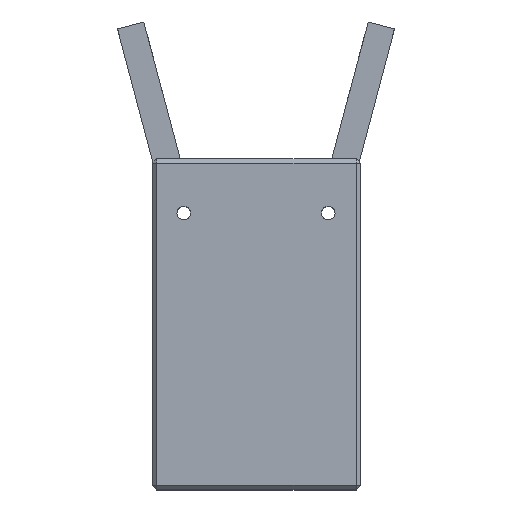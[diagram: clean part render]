
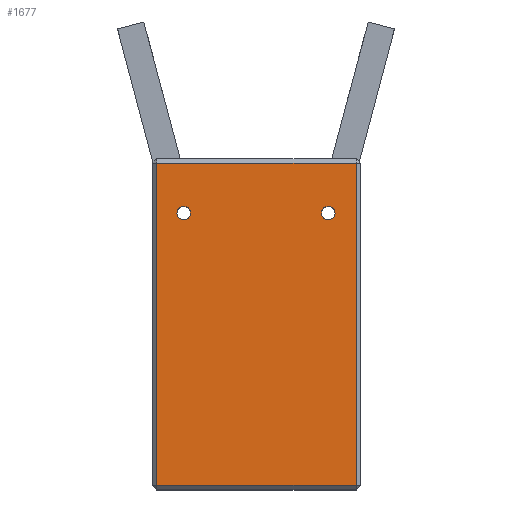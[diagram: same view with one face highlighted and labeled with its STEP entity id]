
A CAD part, top view. The second image highlights one B-rep face of the part: STEP entity #1677.
In plain terms, the highlighted planar face has unit normal (0, 0, 1).
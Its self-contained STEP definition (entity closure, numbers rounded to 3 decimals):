
#1637 = ORIENTED_EDGE ( 'NONE', *, *, #1663, .T. ) ;
#1638 = EDGE_CURVE ( 'NONE', #1665, #1686, #7525, .T. ) ;
#1639 = ORIENTED_EDGE ( 'NONE', *, *, #1638, .T. ) ;
#1643 = EDGE_CURVE ( 'NONE', #1686, #1674, #7510, .T. ) ;
#1644 = EDGE_CURVE ( 'NONE', #3851, #2716, #7489, .T. ) ;
#1647 = EDGE_LOOP ( 'NONE', ( #1654, #1651 ) ) ;
#1648 = ORIENTED_EDGE ( 'NONE', *, *, #1643, .T. ) ;
#1649 = ORIENTED_EDGE ( 'NONE', *, *, #1644, .F. ) ;
#1651 = ORIENTED_EDGE ( 'NONE', *, *, #3803, .F. ) ;
#1652 = ORIENTED_EDGE ( 'NONE', *, *, #3849, .F. ) ;
#1654 = ORIENTED_EDGE ( 'NONE', *, *, #1673, .F. ) ;
#1663 = EDGE_CURVE ( 'NONE', #1676, #1665, #7540, .T. ) ;
#1665 = VERTEX_POINT ( 'NONE', #7544 ) ;
#1666 = EDGE_CURVE ( 'NONE', #1674, #1676, #7534, .T. ) ;
#1673 = EDGE_CURVE ( 'NONE', #3836, #3835, #7580, .T. ) ;
#1674 = VERTEX_POINT ( 'NONE', #7588 ) ;
#1676 = VERTEX_POINT ( 'NONE', #7582 ) ;
#1677 = ADVANCED_FACE ( 'NONE', ( #7532, #7581, #7538 ), #7575, .F. ) ;
#1678 = EDGE_LOOP ( 'NONE', ( #1679, #1637, #1639, #1648 ) ) ;
#1679 = ORIENTED_EDGE ( 'NONE', *, *, #1666, .T. ) ;
#1681 = EDGE_LOOP ( 'NONE', ( #1649, #1652 ) ) ;
#1686 = VERTEX_POINT ( 'NONE', #7559 ) ;
#2716 = VERTEX_POINT ( 'NONE', #10235 ) ;
#3803 = EDGE_CURVE ( 'NONE', #3835, #3836, #15133, .T. ) ;
#3835 = VERTEX_POINT ( 'NONE', #15368 ) ;
#3836 = VERTEX_POINT ( 'NONE', #15367 ) ;
#3849 = EDGE_CURVE ( 'NONE', #2716, #3851, #15527, .T. ) ;
#3851 = VERTEX_POINT ( 'NONE', #15519 ) ;
#7489 = CIRCLE ( 'NONE', #7511, 0.75 ) ;
#7497 = DIRECTION ( 'NONE',  ( 1., 0., 0. ) ) ;
#7498 = DIRECTION ( 'NONE',  ( 0., 0., 1. ) ) ;
#7499 = CARTESIAN_POINT ( 'NONE',  ( 0., 36.5, 16. ) ) ;
#7501 = DIRECTION ( 'NONE',  ( 0., -1., 0. ) ) ;
#7502 = VECTOR ( 'NONE', #7501, 1000. ) ;
#7503 = CARTESIAN_POINT ( 'NONE',  ( 0.5, 36.5, 16. ) ) ;
#7505 = AXIS2_PLACEMENT_3D ( 'NONE', #7499, #7571, #7570 ) ;
#7509 = CARTESIAN_POINT ( 'NONE',  ( 19.427, 30.5, 16. ) ) ;
#7510 = LINE ( 'NONE', #7503, #7502 ) ;
#7511 = AXIS2_PLACEMENT_3D ( 'NONE', #7509, #7498, #7497 ) ;
#7512 = DIRECTION ( 'NONE',  ( -1., 0., 0. ) ) ;
#7513 = VECTOR ( 'NONE', #7512, 1000. ) ;
#7524 = CARTESIAN_POINT ( 'NONE',  ( 0., 36., 16. ) ) ;
#7525 = LINE ( 'NONE', #7524, #7513 ) ;
#7530 = DIRECTION ( 'NONE',  ( 1., 0., 0. ) ) ;
#7531 = VECTOR ( 'NONE', #7530, 1000. ) ;
#7532 = FACE_OUTER_BOUND ( 'NONE', #1678, .T. ) ;
#7533 = CARTESIAN_POINT ( 'NONE',  ( 0., 0.5, 16. ) ) ;
#7534 = LINE ( 'NONE', #7533, #7531 ) ;
#7535 = DIRECTION ( 'NONE',  ( 0., 1., 0. ) ) ;
#7536 = VECTOR ( 'NONE', #7535, 1000. ) ;
#7538 = FACE_BOUND ( 'NONE', #1647, .T. ) ;
#7539 = CARTESIAN_POINT ( 'NONE',  ( 22.5, 36.5, 16. ) ) ;
#7540 = LINE ( 'NONE', #7539, #7536 ) ;
#7544 = CARTESIAN_POINT ( 'NONE',  ( 22.5, 36., 16. ) ) ;
#7559 = CARTESIAN_POINT ( 'NONE',  ( 0.5, 36., 16. ) ) ;
#7570 = DIRECTION ( 'NONE',  ( -1., 0., 0. ) ) ;
#7571 = DIRECTION ( 'NONE',  ( 0., 0., -1. ) ) ;
#7575 = PLANE ( 'NONE',  #7505 ) ;
#7576 = DIRECTION ( 'NONE',  ( 1., 0., 0. ) ) ;
#7577 = DIRECTION ( 'NONE',  ( 0., 0., 1. ) ) ;
#7578 = CARTESIAN_POINT ( 'NONE',  ( 3.486, 30.5, 16. ) ) ;
#7579 = AXIS2_PLACEMENT_3D ( 'NONE', #7578, #7577, #7576 ) ;
#7580 = CIRCLE ( 'NONE', #7579, 0.75 ) ;
#7581 = FACE_BOUND ( 'NONE', #1681, .T. ) ;
#7582 = CARTESIAN_POINT ( 'NONE',  ( 22.5, 0.5, 16. ) ) ;
#7588 = CARTESIAN_POINT ( 'NONE',  ( 0.5, 0.5, 16. ) ) ;
#10235 = CARTESIAN_POINT ( 'NONE',  ( 18.677, 30.5, 16. ) ) ;
#15103 = DIRECTION ( 'NONE',  ( 1., 0., 0. ) ) ;
#15104 = DIRECTION ( 'NONE',  ( 0., 0., 1. ) ) ;
#15105 = AXIS2_PLACEMENT_3D ( 'NONE', #15115, #15104, #15103 ) ;
#15115 = CARTESIAN_POINT ( 'NONE',  ( 3.486, 30.5, 16. ) ) ;
#15133 = CIRCLE ( 'NONE', #15105, 0.75 ) ;
#15367 = CARTESIAN_POINT ( 'NONE',  ( 4.236, 30.5, 16. ) ) ;
#15368 = CARTESIAN_POINT ( 'NONE',  ( 2.736, 30.5, 16. ) ) ;
#15506 = DIRECTION ( 'NONE',  ( 1., 0., 0. ) ) ;
#15507 = DIRECTION ( 'NONE',  ( 0., 0., 1. ) ) ;
#15516 = AXIS2_PLACEMENT_3D ( 'NONE', #15522, #15507, #15506 ) ;
#15519 = CARTESIAN_POINT ( 'NONE',  ( 20.177, 30.5, 16. ) ) ;
#15522 = CARTESIAN_POINT ( 'NONE',  ( 19.427, 30.5, 16. ) ) ;
#15527 = CIRCLE ( 'NONE', #15516, 0.75 ) ;
